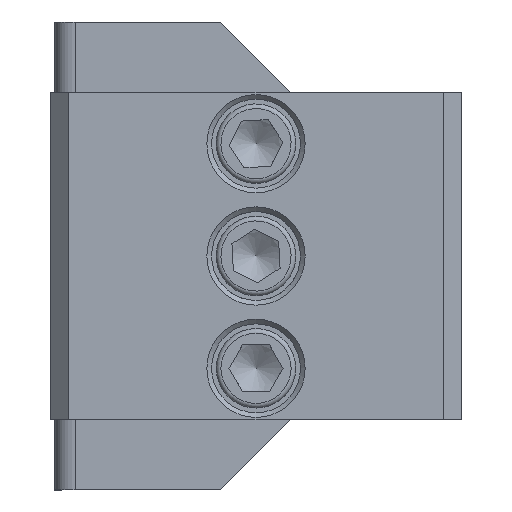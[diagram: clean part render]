
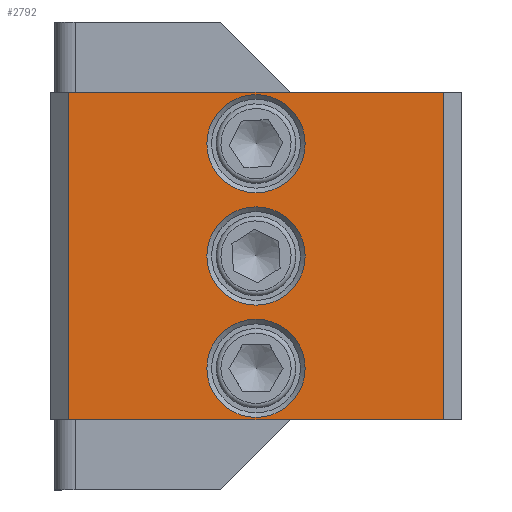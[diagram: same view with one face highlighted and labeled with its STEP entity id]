
A CAD part, front view. The second image highlights one B-rep face of the part: STEP entity #2792.
In plain terms, the highlighted planar face has unit normal (0, -1, 0).
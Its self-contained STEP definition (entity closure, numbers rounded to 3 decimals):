
#512=PLANE('',#9605);
#1381=LINE('',#13718,#2118);
#1415=LINE('',#13840,#2152);
#1448=LINE('',#13964,#2185);
#1449=LINE('',#13965,#2186);
#2118=VECTOR('',#10876,1.);
#2152=VECTOR('',#10968,1.);
#2185=VECTOR('',#11061,1.);
#2186=VECTOR('',#11062,1.);
#2792=ADVANCED_FACE('',(#3300,#3301,#3302,#3303),#512,.T.);
#3300=FACE_BOUND('',#3465,.T.);
#3301=FACE_BOUND('',#3466,.T.);
#3302=FACE_BOUND('',#3467,.T.);
#3303=FACE_BOUND('',#3468,.T.);
#3465=EDGE_LOOP('',(#4443));
#3466=EDGE_LOOP('',(#4444));
#3467=EDGE_LOOP('',(#4445));
#3468=EDGE_LOOP('',(#4446,#4447,#4448,#4449));
#4443=ORIENTED_EDGE('',*,*,#7914,.T.);
#4444=ORIENTED_EDGE('',*,*,#7915,.T.);
#4445=ORIENTED_EDGE('',*,*,#7916,.T.);
#4446=ORIENTED_EDGE('',*,*,#7794,.F.);
#4447=ORIENTED_EDGE('',*,*,#7917,.T.);
#4448=ORIENTED_EDGE('',*,*,#7855,.T.);
#4449=ORIENTED_EDGE('',*,*,#7918,.T.);
#6802=VERTEX_POINT('',#13717);
#6803=VERTEX_POINT('',#13719);
#6862=VERTEX_POINT('',#13841);
#6863=VERTEX_POINT('',#13842);
#6920=VERTEX_POINT('',#13959);
#6921=VERTEX_POINT('',#13961);
#6922=VERTEX_POINT('',#13963);
#7794=EDGE_CURVE('',#6802,#6803,#1381,.T.);
#7855=EDGE_CURVE('',#6862,#6863,#1415,.T.);
#7914=EDGE_CURVE('',#6920,#6920,#9080,.T.);
#7915=EDGE_CURVE('',#6921,#6921,#9081,.T.);
#7916=EDGE_CURVE('',#6922,#6922,#9082,.T.);
#7917=EDGE_CURVE('',#6802,#6862,#1448,.T.);
#7918=EDGE_CURVE('',#6863,#6803,#1449,.T.);
#9080=CIRCLE('',#9602,5.25);
#9081=CIRCLE('',#9603,5.25);
#9082=CIRCLE('',#9604,5.25);
#9602=AXIS2_PLACEMENT_3D('',#13958,#11055,#11056);
#9603=AXIS2_PLACEMENT_3D('',#13960,#11057,#11058);
#9604=AXIS2_PLACEMENT_3D('',#13962,#11059,#11060);
#9605=AXIS2_PLACEMENT_3D('',#13966,#11063,#11064);
#10876=DIRECTION('',(-1.,0.,0.));
#10968=DIRECTION('',(-1.,0.,0.));
#11055=DIRECTION('',(0.,1.,0.));
#11056=DIRECTION('',(0.,0.,-1.));
#11057=DIRECTION('',(0.,1.,0.));
#11058=DIRECTION('',(0.,0.,-1.));
#11059=DIRECTION('',(0.,1.,0.));
#11060=DIRECTION('',(0.,0.,-1.));
#11061=DIRECTION('',(0.,0.,1.));
#11062=DIRECTION('',(0.,0.,-1.));
#11063=DIRECTION('',(0.,-1.,0.));
#11064=DIRECTION('',(0.,0.,1.));
#13717=CARTESIAN_POINT('',(8.,-12.,0.));
#13718=CARTESIAN_POINT('',(4.089,-12.,0.));
#13719=CARTESIAN_POINT('',(-32.,-12.,0.));
#13840=CARTESIAN_POINT('',(4.089,-12.,35.));
#13841=CARTESIAN_POINT('',(8.,-12.,35.));
#13842=CARTESIAN_POINT('',(-32.,-12.,35.));
#13958=CARTESIAN_POINT('',(-12.,-12.,29.5));
#13959=CARTESIAN_POINT('',(-12.,-12.,24.25));
#13960=CARTESIAN_POINT('',(-12.,-12.,17.5));
#13961=CARTESIAN_POINT('',(-12.,-12.,12.25));
#13962=CARTESIAN_POINT('',(-12.,-12.,5.5));
#13963=CARTESIAN_POINT('',(-12.,-12.,0.25));
#13964=CARTESIAN_POINT('',(8.,-12.,0.));
#13965=CARTESIAN_POINT('',(-32.,-12.,0.));
#13966=CARTESIAN_POINT('',(4.322,-12.,0.));
